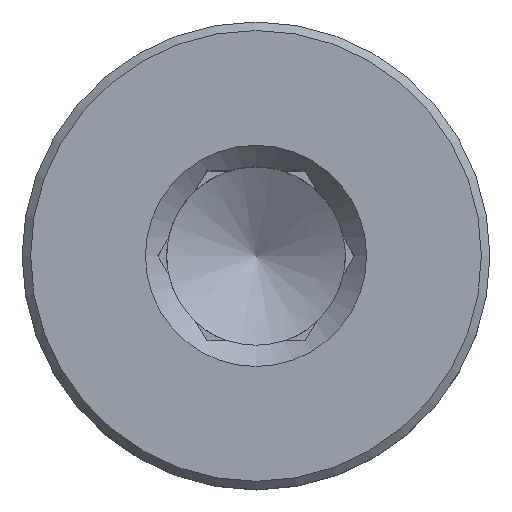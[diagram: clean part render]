
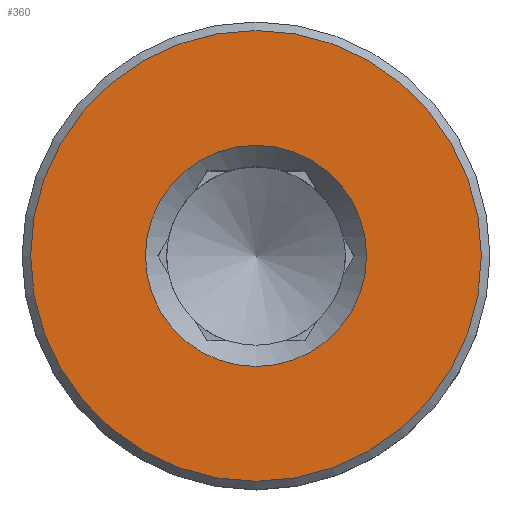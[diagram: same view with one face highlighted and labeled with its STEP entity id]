
A CAD part, top view. The second image highlights one B-rep face of the part: STEP entity #360.
In plain terms, the highlighted planar face has unit normal (0, 0, 1).
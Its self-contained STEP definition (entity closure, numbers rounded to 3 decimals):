
#360=ADVANCED_FACE('', (#370,#380), #390, .T.);
#2530=AXIS2_PLACEMENT_3D('Ax2Pl3d', #2540, #2550, #2560);
#2650=AXIS2_PLACEMENT_3D('Ax2Pl3d', #2660, #2670, #2680);
#2690=AXIS2_PLACEMENT_3D('Ax2Pl3d', #2700, #2710, #2720);
#2540=CARTESIAN_POINT('HicPkt', (9.794,9.213,
13.188));
#6180=CARTESIAN_POINT('', (9.794,6.613,13.188));
#2660=CARTESIAN_POINT('HicPkt', (15.094,9.213,
13.188));
#2700=CARTESIAN_POINT('HicPkt', (9.794,9.213,
13.188));
#6290=CARTESIAN_POINT('', (9.794,14.513,13.188));
#6840=CIRCLE('Circle', #2530, 2.6);
#6850=CIRCLE('Circle', #2690, 5.3);
#2550=DIRECTION('Axis', (0.,0.,1.));
#2560=DIRECTION('RefDirection', (1.,0.,-0.));
#2670=DIRECTION('Axis', (0.,0.,1.));
#2680=DIRECTION('RefDirection', (1.,0.,-0.));
#2710=DIRECTION('Axis', (0.,0.,1.));
#2720=DIRECTION('RefDirection', (1.,0.,-0.));
#10420=EDGE_CURVE('', #10430, #10430, #6840, .T.);
#10690=EDGE_CURVE('', #10700, #10700, #6850, .T.);
#12100=EDGE_LOOP('Edge_loop', (#12110));
#12120=EDGE_LOOP('Edge_loop', (#12130));
#380=FACE_BOUND('', #12120, .T.);
#370=FACE_OUTER_BOUND('Face_outer_bound', #12100, .T.);
#12110=ORIENTED_EDGE('', *, *, #10690, .T.);
#12130=ORIENTED_EDGE('', *, *, #10420, .F.);
#390=PLANE('Plane', #2650);
#10430=VERTEX_POINT('', #6180);
#10700=VERTEX_POINT('', #6290);
